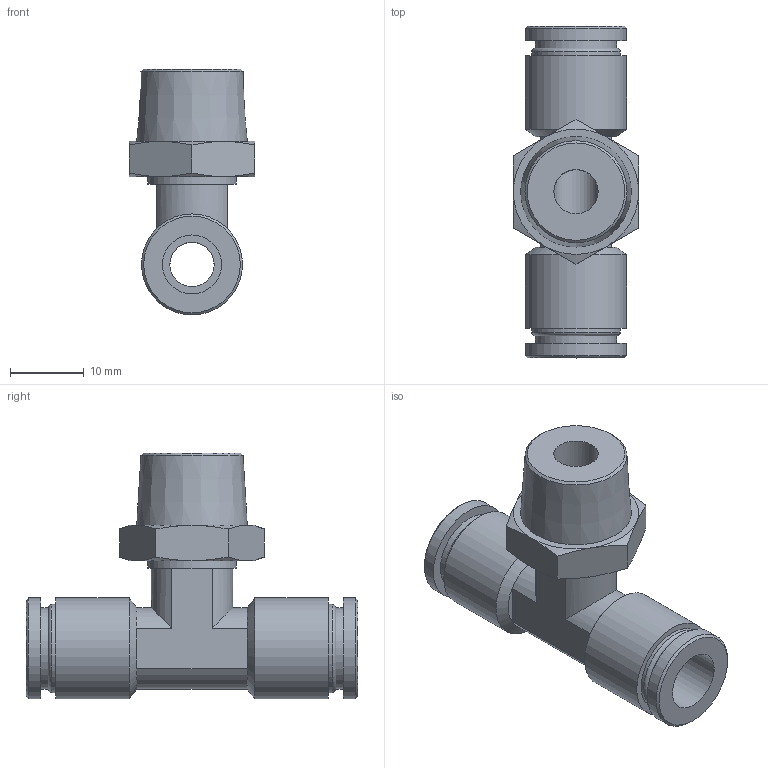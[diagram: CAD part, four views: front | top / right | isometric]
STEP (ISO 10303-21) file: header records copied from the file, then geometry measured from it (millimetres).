
FILE_DESCRIPTION(/* description */ (''),/* implementation_level */ '2;1');
FILE_NAME(/* name */ 'LXH31 0008 B3.stp',/* time_stamp */ '2026-04-22T20:54:29+02:00',/* author */ ('freju'),/* organization */ (''),/* preprocessor_version */ 'ST-DEVELOPER v20.1',/* originating_system */ 'Autodesk Inventor 2026',/* authorisation */ '');
FILE_SCHEMA (('AUTOMOTIVE_DESIGN { 1 0 10303 214 3 1 1 }'));
Length unit declared in the file: millimetre
Products named in the file (1): LXH31 0008 B3
Bounding box: 17 x 45 x 33.35 mm (x, y, z)
Volume: 6279.4 mm3; surface area: 4962.2 mm2
Topology: 1 solids, 1 shells, 62 faces, 133 edges, 81 vertices
Faces by surface type: plane 24, cylinder 18, cone 18, torus 2
Full cylindrical faces by diameter (mm): 6 x2, 8 x2, 11 x2, 12 x3, 13.7 x4
Entity records: 1707 total; most frequent: CARTESIAN_POINT 325, DIRECTION 302, ORIENTED_EDGE 266, EDGE_CURVE 133, AXIS2_PLACEMENT_3D 130, VERTEX_POINT 81, EDGE_LOOP 74, CIRCLE 63
